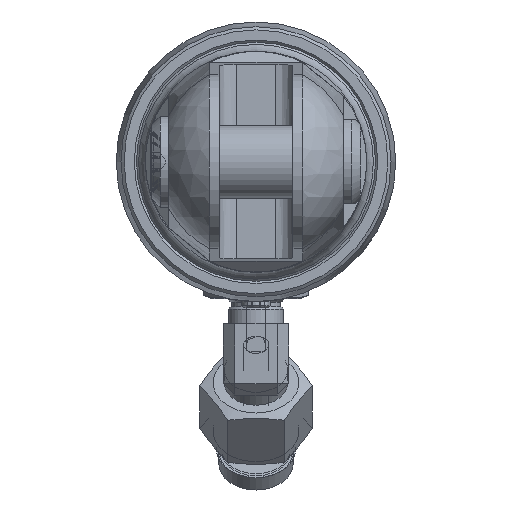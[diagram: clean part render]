
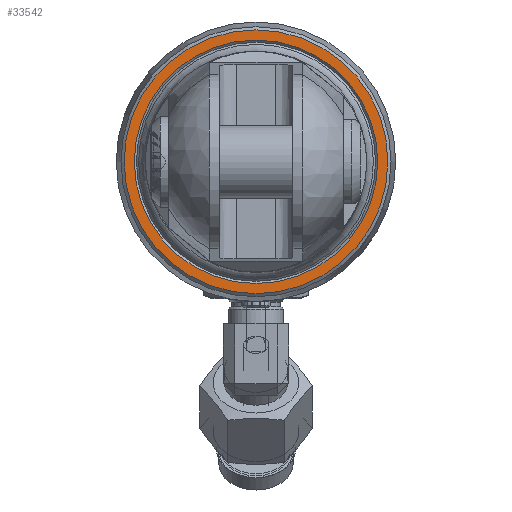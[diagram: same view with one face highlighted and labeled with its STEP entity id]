
A CAD part, left-side view. The second image highlights one B-rep face of the part: STEP entity #33542.
In plain terms, the highlighted planar face has unit normal (-1, 0, 0).
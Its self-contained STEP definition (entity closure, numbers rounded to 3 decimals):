
#424=FACE_BOUND('',#5698,.T.);
#3829=FACE_OUTER_BOUND('',#5697,.T.);
#5697=EDGE_LOOP('',(#28495));
#5698=EDGE_LOOP('',(#28496));
#12029=CIRCLE('',#35016,21.25);
#12044=CIRCLE('',#35036,23.025);
#15004=VERTEX_POINT('',#60670);
#15022=VERTEX_POINT('',#61188);
#19536=EDGE_CURVE('',#15004,#15004,#12029,.T.);
#19560=EDGE_CURVE('',#15022,#15022,#12044,.T.);
#28495=ORIENTED_EDGE('',*,*,#19560,.F.);
#28496=ORIENTED_EDGE('',*,*,#19536,.F.);
#30137=PLANE('',#35035);
#33542=ADVANCED_FACE('',(#3829,#424),#30137,.T.);
#35016=AXIS2_PLACEMENT_3D('',#60671,#40582,#40583);
#35035=AXIS2_PLACEMENT_3D('',#61187,#40625,#40626);
#35036=AXIS2_PLACEMENT_3D('',#61189,#40627,#40628);
#40582=DIRECTION('center_axis',(-1.,0.,0.));
#40583=DIRECTION('ref_axis',(0.,1.,0.));
#40625=DIRECTION('center_axis',(-1.,0.,0.));
#40626=DIRECTION('ref_axis',(0.,0.,1.));
#40627=DIRECTION('center_axis',(1.,0.,0.));
#40628=DIRECTION('ref_axis',(0.,-1.,0.));
#60670=CARTESIAN_POINT('',(0.,-21.25,0.));
#60671=CARTESIAN_POINT('Origin',(0.,0.,0.));
#61187=CARTESIAN_POINT('Origin',(0.,0.,0.));
#61188=CARTESIAN_POINT('',(0.,23.025,0.));
#61189=CARTESIAN_POINT('Origin',(0.,0.,0.));
